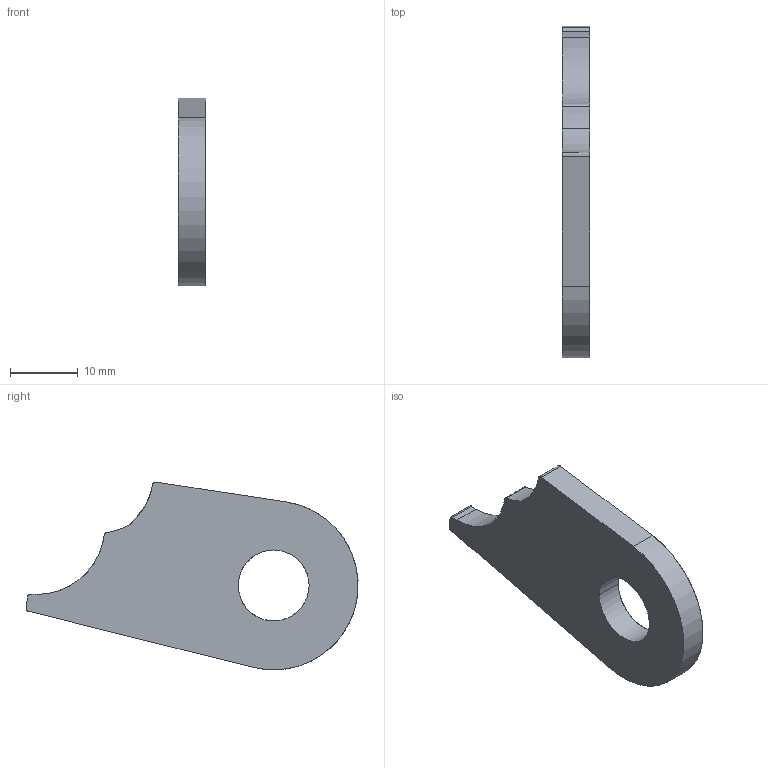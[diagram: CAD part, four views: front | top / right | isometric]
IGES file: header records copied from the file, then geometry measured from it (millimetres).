
Start section: START RECORD GO HERE.
Global section: file name: 20M_EN_06129 (Chape PE Droit Haut 1).igs; native system: IBM CATIA IGES - CATIA Version 5 Release 19 ; preprocessor: CATIA Version 5 Release 19 ; author: mik75; organization: LAPTOP-SUH344G9; date: 20200110.161305; units: millimetre
Bounding box: 4 x 49.15 x 27.79 mm (x, y, z)
Surface area: 2206.5 mm2 (no closed solid volume)
Topology: 0 solids, 0 shells, 16 faces, 88 edges, 88 vertices
Faces by surface type: revolution 7, plane 5, extrusion 4
